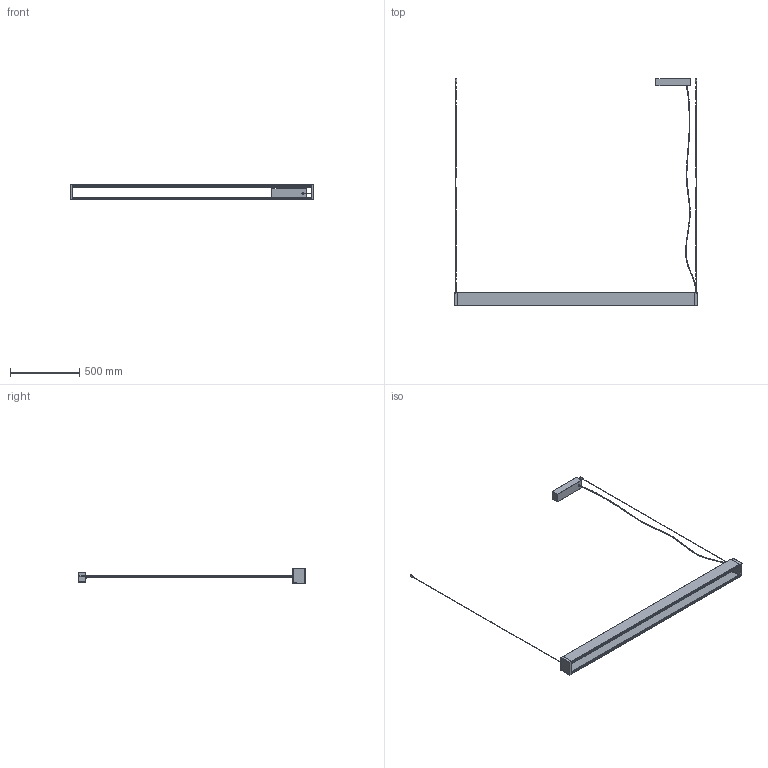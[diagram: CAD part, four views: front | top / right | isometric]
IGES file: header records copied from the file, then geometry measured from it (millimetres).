
Start section: SolidWorks IGES file using analytic representation for surfaces
Global section: file name: C:\Users\tungari.NEMOLIGHTING\Desktop\3D\PENDANT\3D_TRU_DOWNDOWN_HORIZONTAL\DEF2\3D_TRU_DOWNDOWN_H_PENDANT.IGS; native system: SolidWorks 2016; preprocessor: SolidWorks 2016; author: tungari; date: 180409.165735; units: millimetre
Bounding box: 1755.68 x 1633.7 x 112 mm (x, y, z)
Surface area: 1026789 mm2 (no closed solid volume)
Topology: 0 solids, 0 shells, 357 faces, 3644 edges, 3635 vertices
Faces by surface type: bspline 255, revolution 102
